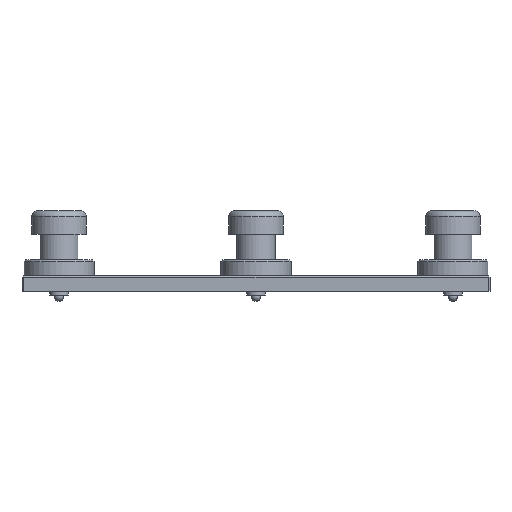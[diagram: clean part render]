
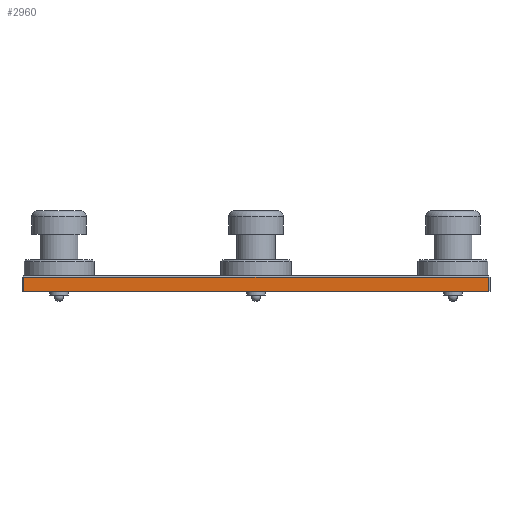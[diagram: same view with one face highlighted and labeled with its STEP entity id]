
A CAD part, front view. The second image highlights one B-rep face of the part: STEP entity #2960.
In plain terms, the highlighted planar face has unit normal (0, -1, 0).
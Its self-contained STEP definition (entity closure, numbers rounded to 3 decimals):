
#916=LINE('',#14464,#1611);
#926=LINE('',#14484,#1621);
#927=LINE('',#14486,#1622);
#928=LINE('',#14488,#1623);
#1611=VECTOR('',#12010,1.);
#1621=VECTOR('',#12026,1.);
#1622=VECTOR('',#12029,1.);
#1623=VECTOR('',#12030,1.);
#2205=FACE_OUTER_BOUND('',#4483,.T.);
#2960=ADVANCED_FACE('',(#2205),#3456,.T.);
#3456=PLANE('',#10417);
#4483=EDGE_LOOP('',(#5872,#5873,#5874,#5875));
#5872=ORIENTED_EDGE('',*,*,#8921,.T.);
#5873=ORIENTED_EDGE('',*,*,#8922,.T.);
#5874=ORIENTED_EDGE('',*,*,#8923,.T.);
#5875=ORIENTED_EDGE('',*,*,#8911,.T.);
#7900=VERTEX_POINT('',#14463);
#7901=VERTEX_POINT('',#14465);
#7907=VERTEX_POINT('',#14483);
#7908=VERTEX_POINT('',#14487);
#8911=EDGE_CURVE('',#7901,#7900,#916,.T.);
#8921=EDGE_CURVE('',#7900,#7907,#926,.T.);
#8922=EDGE_CURVE('',#7907,#7908,#927,.T.);
#8923=EDGE_CURVE('',#7908,#7901,#928,.T.);
#10417=AXIS2_PLACEMENT_3D('',#14489,#12031,#12032);
#12010=DIRECTION('',(1.,0.,0.));
#12026=DIRECTION('',(0.,0.,1.));
#12029=DIRECTION('',(-1.,0.,0.));
#12030=DIRECTION('',(0.,0.,-1.));
#12031=DIRECTION('',(0.,-1.,0.));
#12032=DIRECTION('',(0.,0.,-1.));
#14463=CARTESIAN_POINT('',(470.,-11.,0.));
#14464=CARTESIAN_POINT('',(321.,-11.,0.));
#14465=CARTESIAN_POINT('',(172.,-11.,0.));
#14483=CARTESIAN_POINT('',(470.,-11.,9.));
#14484=CARTESIAN_POINT('',(470.,-11.,0.));
#14486=CARTESIAN_POINT('',(321.,-11.,9.));
#14487=CARTESIAN_POINT('',(172.,-11.,9.));
#14488=CARTESIAN_POINT('',(172.,-11.,0.));
#14489=CARTESIAN_POINT('',(321.,-11.,0.));
